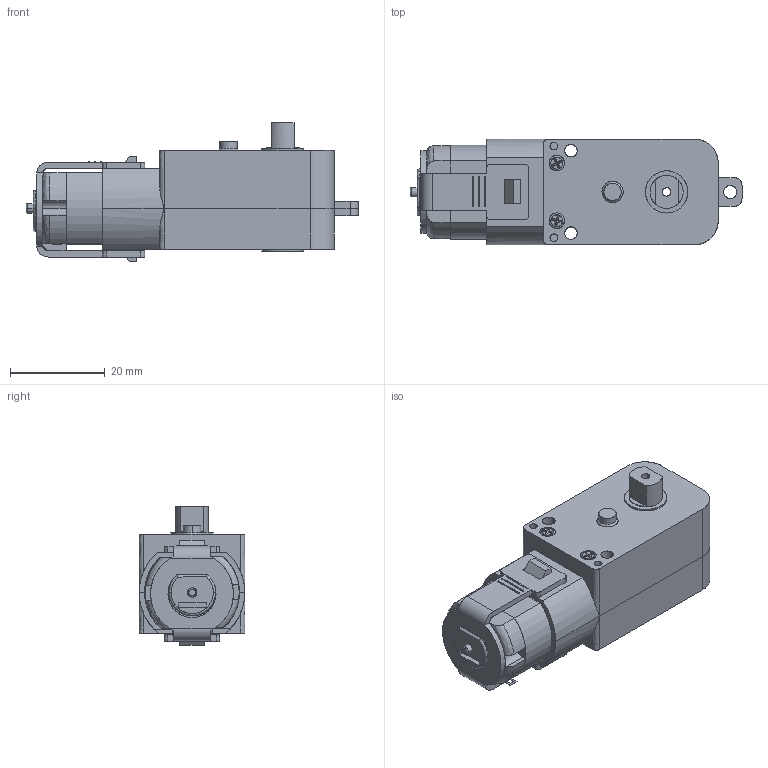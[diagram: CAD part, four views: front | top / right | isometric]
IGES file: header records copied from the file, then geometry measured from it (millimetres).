
Start section: SolidWorks IGES FILE using analytic representation for surfaces
Global section: file name: S:\Projects\Motor Stuff\SW Motor Drawings\GM9\GM9_Assem.IGS; native system: SolidWorks 2003 by SolidWorks Corporation; preprocessor: Version 5.3; author: sb13; date: 060531.104516; units: inch
Bounding box: 70.24 x 22.35 x 29.33 mm (x, y, z)
Surface area: 12746 mm2 (no closed solid volume)
Topology: 0 solids, 0 shells, 429 faces, 4499 edges, 4475 vertices
Faces by surface type: bspline 247, revolution 182
